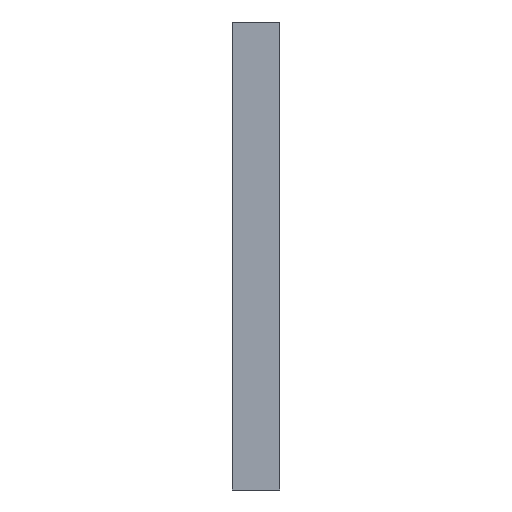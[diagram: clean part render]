
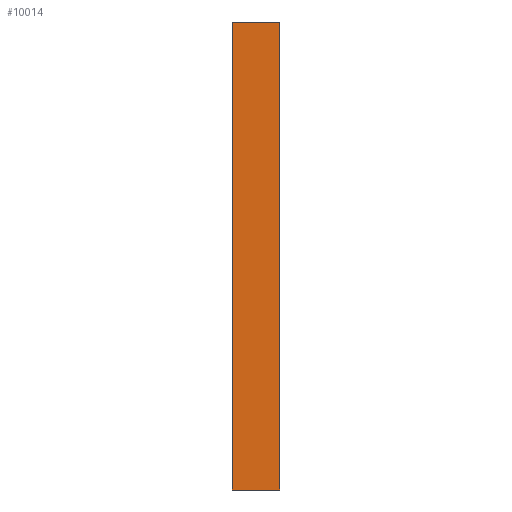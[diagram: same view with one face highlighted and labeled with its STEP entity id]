
A CAD part, left-side view. The second image highlights one B-rep face of the part: STEP entity #10014.
In plain terms, the highlighted planar face has unit normal (-1, 0, 0).
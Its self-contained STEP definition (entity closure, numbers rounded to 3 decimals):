
#11 = CARTESIAN_POINT ( 'NONE',  ( -305.213, 0.203, 261.139 ) ) ;
#1269 = CARTESIAN_POINT ( 'NONE',  ( -305.213, 0.203, -256.113 ) ) ;
#1286 = EDGE_CURVE ( 'NONE', #1730, #18645, #17172, .T. ) ;
#1730 = VERTEX_POINT ( 'NONE', #20785 ) ;
#1852 = EDGE_LOOP ( 'NONE', ( #10362, #25740, #22277, #5083 ) ) ;
#1873 = VERTEX_POINT ( 'NONE', #10677 ) ;
#1898 = FACE_OUTER_BOUND ( 'NONE', #1852, .T. ) ;
#3051 = EDGE_CURVE ( 'NONE', #17675, #18645, #11242, .T. ) ;
#3839 = AXIS2_PLACEMENT_3D ( 'NONE', #8644, #4199, #4480 ) ;
#4199 = DIRECTION ( 'NONE',  ( -1., 0., 0. ) ) ;
#4480 = DIRECTION ( 'NONE',  ( 0., 0., 1. ) ) ;
#5083 = ORIENTED_EDGE ( 'NONE', *, *, #3051, .F. ) ;
#8644 = CARTESIAN_POINT ( 'NONE',  ( -305.213, 869.173, 261.139 ) ) ;
#10014 = ADVANCED_FACE ( 'NONE', ( #1898 ), #23740, .T. ) ;
#10362 = ORIENTED_EDGE ( 'NONE', *, *, #17141, .F. ) ;
#10677 = CARTESIAN_POINT ( 'NONE',  ( -305.213, 52.562, 261.139 ) ) ;
#10703 = LINE ( 'NONE', #19077, #21151 ) ;
#11242 = LINE ( 'NONE', #24342, #16593 ) ;
#12751 = DIRECTION ( 'NONE',  ( 0., 0., -1. ) ) ;
#13069 = DIRECTION ( 'NONE',  ( 0., -1., 0. ) ) ;
#14906 = CARTESIAN_POINT ( 'NONE',  ( -305.213, 869.173, -256.113 ) ) ;
#15708 = VECTOR ( 'NONE', #12751, 1000. ) ;
#16593 = VECTOR ( 'NONE', #23921, 1000. ) ;
#17141 = EDGE_CURVE ( 'NONE', #1873, #17675, #10703, .T. ) ;
#17172 = LINE ( 'NONE', #14906, #22041 ) ;
#17675 = VERTEX_POINT ( 'NONE', #11 ) ;
#18328 = EDGE_CURVE ( 'NONE', #1873, #1730, #23433, .T. ) ;
#18645 = VERTEX_POINT ( 'NONE', #1269 ) ;
#19077 = CARTESIAN_POINT ( 'NONE',  ( -305.213, 869.173, 261.139 ) ) ;
#20785 = CARTESIAN_POINT ( 'NONE',  ( -305.213, 52.562, -256.113 ) ) ;
#21151 = VECTOR ( 'NONE', #25787, 1000. ) ;
#22041 = VECTOR ( 'NONE', #13069, 1000. ) ;
#22277 = ORIENTED_EDGE ( 'NONE', *, *, #1286, .T. ) ;
#23433 = LINE ( 'NONE', #27562, #15708 ) ;
#23740 = PLANE ( 'NONE',  #3839 ) ;
#23921 = DIRECTION ( 'NONE',  ( 0., 0., -1. ) ) ;
#24342 = CARTESIAN_POINT ( 'NONE',  ( -305.213, 0.203, 261.139 ) ) ;
#25740 = ORIENTED_EDGE ( 'NONE', *, *, #18328, .T. ) ;
#25787 = DIRECTION ( 'NONE',  ( 0., -1., 0. ) ) ;
#27562 = CARTESIAN_POINT ( 'NONE',  ( -305.213, 52.562, 261.139 ) ) ;
